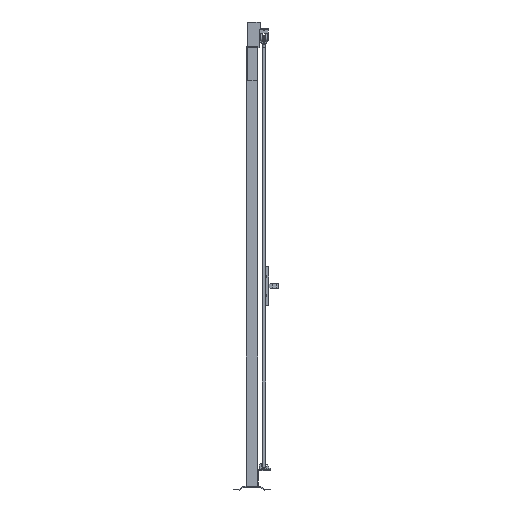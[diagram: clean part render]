
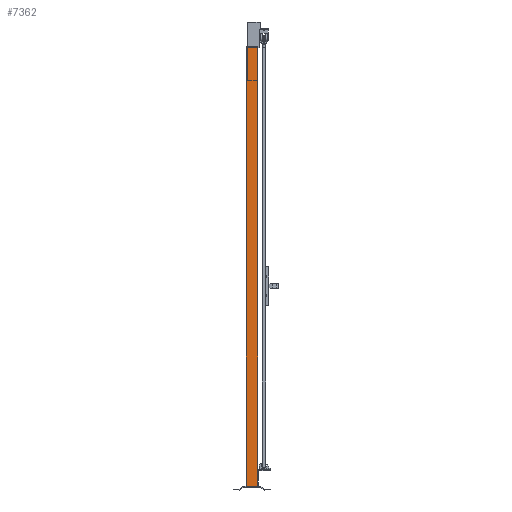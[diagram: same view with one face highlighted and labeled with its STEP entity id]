
A CAD part, left-side view. The second image highlights one B-rep face of the part: STEP entity #7362.
In plain terms, the highlighted planar face has unit normal (-1, 0, 0).
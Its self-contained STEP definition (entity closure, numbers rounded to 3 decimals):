
#592=FACE_OUTER_BOUND('',#1114,.T.);
#1114=EDGE_LOOP('',(#4353,#4354,#4355,#4356));
#1679=VERTEX_POINT('',#14589);
#1680=VERTEX_POINT('',#14591);
#1683=VERTEX_POINT('',#14598);
#1684=VERTEX_POINT('',#14600);
#2771=EDGE_CURVE('',#1679,#1680,#8281,.T.);
#2775=EDGE_CURVE('',#1683,#1684,#8285,.T.);
#2777=EDGE_CURVE('',#1680,#1683,#8287,.T.);
#2779=EDGE_CURVE('',#1679,#1684,#8289,.T.);
#4353=ORIENTED_EDGE('',*,*,#2779,.T.);
#4354=ORIENTED_EDGE('',*,*,#2775,.F.);
#4355=ORIENTED_EDGE('',*,*,#2777,.F.);
#4356=ORIENTED_EDGE('',*,*,#2771,.F.);
#6888=PLANE('',#10745);
#7362=ADVANCED_FACE('',(#592),#6888,.F.);
#8281=LINE('',#14592,#9561);
#8285=LINE('',#14601,#9565);
#8287=LINE('',#14604,#9567);
#8289=LINE('',#14607,#9569);
#9561=VECTOR('',#11694,1.);
#9565=VECTOR('',#11700,1.);
#9567=VECTOR('',#11704,1.);
#9569=VECTOR('',#11708,1.);
#10745=AXIS2_PLACEMENT_3D('',#14606,#11706,#11707);
#11694=DIRECTION('',(0.,-1.,0.));
#11700=DIRECTION('',(0.,1.,0.));
#11704=DIRECTION('',(0.,0.,-1.));
#11706=DIRECTION('center_axis',(1.,0.,0.));
#11707=DIRECTION('ref_axis',(0.,0.,-1.));
#11708=DIRECTION('',(0.,0.,-1.));
#14589=CARTESIAN_POINT('',(-30.,30.,2320.));
#14591=CARTESIAN_POINT('',(-30.,-30.,2320.));
#14592=CARTESIAN_POINT('',(-30.,0.,2320.));
#14598=CARTESIAN_POINT('',(-30.,-30.,20.));
#14600=CARTESIAN_POINT('',(-30.,30.,20.));
#14601=CARTESIAN_POINT('',(-30.,0.,20.));
#14604=CARTESIAN_POINT('',(-30.,-30.,1170.));
#14606=CARTESIAN_POINT('Origin',(-30.,0.,
1170.));
#14607=CARTESIAN_POINT('',(-30.,30.,1170.));
